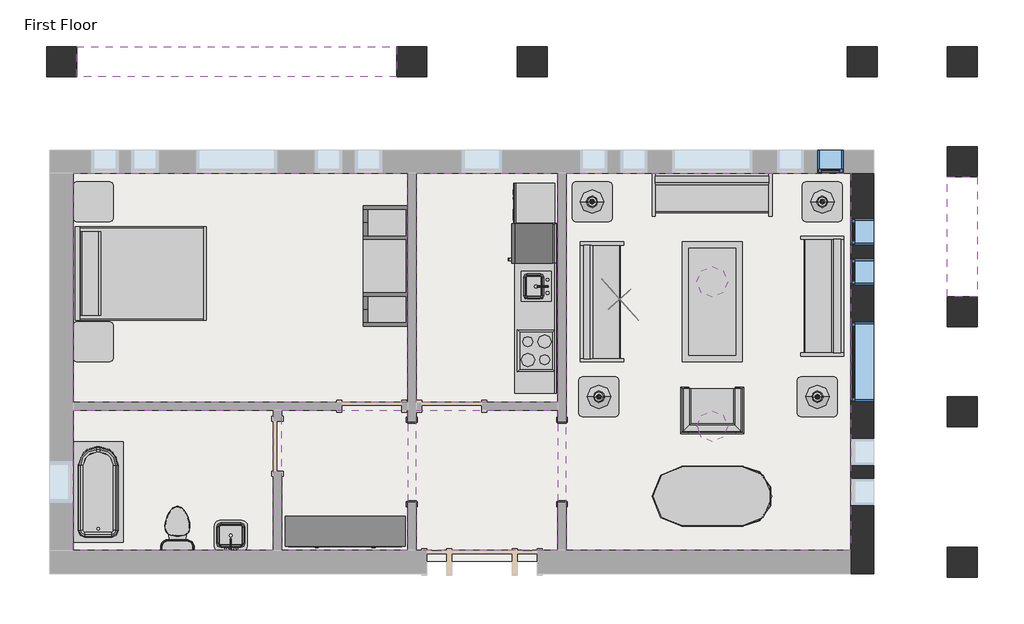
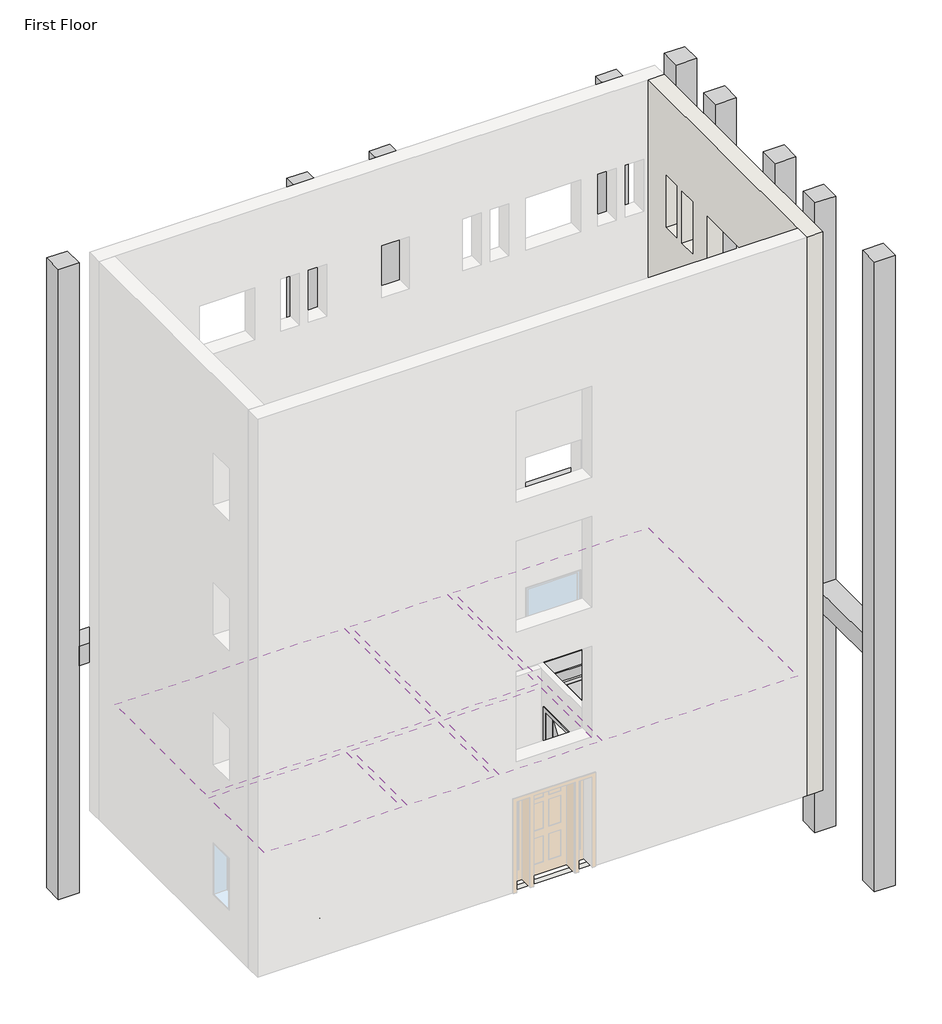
# One storey, part 2 of 2: 16 furniture elements, 9 columns, 7 proxies, 6 coverings, 6 light fixtures, 4 flow terminals, 4 windows, 2 beams, 2 other elements.
"""IFC4 building model written with IfcOpenShell, lengths in millimetres."""

from ifc_helpers import new_model, si_unit, frame, origin, place, context, project, spatial, polyline, outline, extrude, faceted_brep, transform, mapped, element, save
from components import proxy_dfcd9396, proxy_3c49123c, proxy_7a545507, proxy_f44482cc, rpc_female_69e001fa, proxy_ec3341c2, flow_terminal_41332a36, flow_terminal_62a433f7, toilet_domestic_3d_toilet_domestic_3d_f7549cf7, toilet_domestic_3d_toilet_domestic_3d_183bbd19, tub_rectangular_3d_tub_rectangular_3d_15036965, furniture_096e7f55, chair_corbu_chair_corbu_2764bdef, furniture_6db689a5, furniture_7c473f12, furniture_cf0b6580, furniture_a4ffab56, furniture_cd93a443, furniture_2c34a4f9, furniture_3a588284, pendant_light_disk_100w_120v_c68bffb6, table_lamp_standard_60w_120v_6e8cd8b1, window_da97879f, window_d61ef850, window_6eb97611

model = new_model("IFC4")

# Units and contexts
model_context = context("Model", 3, world=origin())
ifc_project = project(units=[si_unit("LENGTHUNIT", "METRE", prefix="MILLI")], contexts=[model_context])

# Site, building, storey
site = spatial("IfcSite", under=ifc_project)
building = spatial("IfcBuilding", under=site)
storey = spatial("IfcBuildingStorey", under=building, Name="First Floor", Elevation=0.0)

# Beams
placement = place(None, origin())
element("IfcBeam", 1, ObjectType="Concrete-Rectangular Beam : 18 x 18", at=placement, inside=storey, context=model_context, shape_type="SweptSolid", body=[
    extrude(outline(polyline([(2093.9410437, 12198.8316867), (2093.9410437, 11741.6316867), (1027.1410437, 11741.6316867), (1027.1410437, 12198.8316867), (2093.9410437, 12198.8316867)])), frame((0.0, 0.0, 2590.8), z_axis=(0.0, 0.0, 1.0), x_axis=(1.0, 0.0, 0.0)), (0.0, 0.0, 1.0), 457.2),
    extrude(outline(polyline([(-11164.8589563, 11741.6316867), (-11164.8589563, 12198.8316867), (-6288.0589563, 12198.8316867), (-6288.0589563, 11741.6316867), (-11164.8589563, 11741.6316867)])), frame((0.0, 0.0, 2590.8), z_axis=(0.0, 0.0, 1.0), x_axis=(1.0, 0.0, 0.0)), (0.0, 0.0, 1.0), 457.2),
    extrude(outline(polyline([(569.9410437, 12198.8316867), (569.9410437, 11741.6316867), (-4002.0589563, 11741.6316867), (-4002.0589563, 12198.8316867), (569.9410437, 12198.8316867)])), frame((0.0, 0.0, 2590.8), z_axis=(0.0, 0.0, 1.0), x_axis=(1.0, 0.0, 0.0)), (0.0, 0.0, 1.0), 457.2),
    extrude(outline(polyline([(-4459.2589563, 12198.8316867), (-4459.2589563, 11741.6316867), (-5830.8589563, 11741.6316867), (-5830.8589563, 12198.8316867), (-4459.2589563, 12198.8316867)])), frame((0.0, 0.0, 2590.8), z_axis=(0.0, 0.0, 1.0), x_axis=(1.0, 0.0, 0.0)), (0.0, 0.0, 1.0), 457.2),
])
element("IfcBeam", 2, ObjectType="Concrete-Rectangular Beam : 18 x 18", at=placement, inside=storey, context=model_context, shape_type="SweptSolid", body=[
    extrude(outline(polyline([(2093.9410437, 11741.6316867), (2551.1410437, 11741.6316867), (2551.1410437, 10674.8316867), (2093.9410437, 10674.8316867), (2093.9410437, 11741.6316867)])), frame((0.0, 0.0, 2590.8), z_axis=(0.0, 0.0, 1.0), x_axis=(1.0, 0.0, 0.0)), (0.0, 0.0, 1.0), 457.2),
    extrude(outline(polyline([(2551.1410437, 4578.8316867), (2093.9410437, 4578.8316867), (2093.9410437, 6407.6316867), (2551.1410437, 6407.6316867), (2551.1410437, 4578.8316867)])), frame((0.0, 0.0, 2590.8), z_axis=(0.0, 0.0, 1.0), x_axis=(1.0, 0.0, 0.0)), (0.0, 0.0, 1.0), 457.2),
    extrude(outline(polyline([(2093.9410437, 10217.6316867), (2551.1410437, 10217.6316867), (2551.1410437, 8388.8316867), (2093.9410437, 8388.8316867), (2093.9410437, 10217.6316867)])), frame((0.0, 0.0, 2590.8), z_axis=(0.0, 0.0, 1.0), x_axis=(1.0, 0.0, 0.0)), (0.0, 0.0, 1.0), 457.2),
    extrude(outline(polyline([(2093.9410437, 7931.6316867), (2551.1410437, 7931.6316867), (2551.1410437, 6864.8316867), (2093.9410437, 6864.8316867), (2093.9410437, 7931.6316867)])), frame((0.0, 0.0, 2590.8), z_axis=(0.0, 0.0, 1.0), x_axis=(1.0, 0.0, 0.0)), (0.0, 0.0, 1.0), 457.2),
])

# Proxies
proxy_shape = proxy_dfcd9396(model_context)
element("IfcBuildingElementProxy", 3, Name="Cook Top-4 Unit2 : 22\" x 20\"", ObjectType="Cook Top-4 Unit2 : 22\" x 20\"", at=placement, inside=storey, context=model_context, shape_type="MappedRepresentation", body=[
    mapped(proxy_shape, transform((-4167.1589563, 7568.5224391, 0.0), x_axis=(0.0, 1.0000000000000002, 0.0), y_axis=(-1.0000000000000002, 0.0, 0.0), z_axis=(0.0, 0.0, 1.0))),
])
proxy_2_shape = proxy_3c49123c(model_context)
element("IfcBuildingElementProxy", 4, Name="Dishwasher : 24\" x 24\" x 34\"", ObjectType="Dishwasher : 24\" x 24\" x 34\"", at=placement, inside=storey, context=model_context, shape_type="MappedRepresentation", body=[
    mapped(proxy_2_shape, transform((-4459.0085211, 9434.1049706, 0.0), x_axis=(0.0, 1.0000000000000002, 0.0), y_axis=(-1.0000000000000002, 0.0, 0.0), z_axis=(0.0, 0.0, 1.0))),
])
proxy_3_shape = proxy_7a545507(model_context)
element("IfcBuildingElementProxy", 5, Name="Kitchenette - Medium : 8'6\"", ObjectType="Kitchenette - Medium : 8'6\"", at=placement, inside=storey, context=model_context, shape_type="MappedRepresentation", body=[
    mapped(proxy_3_shape, transform((-3862.3589563, 8197.4847342, 0.0), x_axis=(0.0, 1.0000000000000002, 0.0), y_axis=(-1.0000000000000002, 0.0, 0.0), z_axis=(0.0, 0.0, 1.0))),
])
proxy_4_shape = proxy_f44482cc(model_context)
element("IfcBuildingElementProxy", 6, Name="Opening-Cased : 48\" x 84\"", ObjectType="Opening-Cased : 48\" x 84\"", at=placement, inside=storey, context=model_context, shape_type="MappedRepresentation", body=[
    mapped(proxy_4_shape, transform((-3773.4589563, 5882.4203434, 0.0), x_axis=(0.0, 1.0, 0.0), y_axis=(-1.0, 0.0, 0.0), z_axis=(0.0, 0.0, 1.0))),
])
element("IfcBuildingElementProxy", 7, Name="Opening-Cased : 48\" x 84\"", ObjectType="Opening-Cased : 48\" x 84\"", at=placement, inside=storey, context=model_context, shape_type="MappedRepresentation", body=[
    mapped(proxy_4_shape, transform((-6059.4589563, 5866.04303, 0.0), x_axis=(0.0, -1.0, 0.0), y_axis=(1.0, 0.0, 0.0), z_axis=(0.0, 0.0, 1.0))),
])
rpc_female_shape = rpc_female_69e001fa(model_context)
element("IfcBuildingElementProxy", 8, Name="RPC Female : Cynthia", ObjectType="RPC Female : Cynthia", at=placement, inside=storey, context=model_context, shape_type="MappedRepresentation", body=[
    mapped(rpc_female_shape, transform((-2793.743807, 8229.6, -0.79375), x_axis=(0.74728204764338, 0.6645069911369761, 0.0), y_axis=(-0.6645069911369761, 0.74728204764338, 0.0), z_axis=(0.0, 0.0, 1.0))),
])
proxy_5_shape = proxy_ec3341c2(model_context)
element("IfcBuildingElementProxy", 9, Name="Refrigerator : 24\" x 25\" LH", ObjectType="Refrigerator : 24\" x 25\" LH", at=placement, inside=storey, context=model_context, shape_type="MappedRepresentation", body=[
    mapped(proxy_5_shape, transform((-4212.8079278, 9200.4724391, 0.0), x_axis=(0.0, 1.0000000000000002, 0.0), y_axis=(-1.0000000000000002, 0.0, 0.0), z_axis=(0.0, 0.0, 1.0))),
])

# Columns
element("IfcColumn", 10, ObjectType="Concrete-Square-Column : 18 x 18", at=placement, inside=storey, context=model_context, shape_type="Brep", body=[
    faceted_brep([(1027.1410437, 12198.8316867, -2743.2), (1027.1410437, 11741.6316867, -2743.2), (569.9410437, 11741.6316867, -2743.2), (569.9410437, 12198.8316867, -2743.2), (1027.1410437, 12198.8316867, 12039.6), (1027.1410437, 11741.6316867, 12039.6), (1027.1410437, 11741.6316867, 11734.8), (1027.1410437, 11741.6316867, 9144.0), (1027.1410437, 11741.6316867, 8686.8), (1027.1410437, 11741.6316867, 6096.0), (1027.1410437, 11741.6316867, 5638.8), (1027.1410437, 11741.6316867, 3048.0), (1027.1410437, 11741.6316867, 2590.8), (1027.1410437, 12198.8316867, 2590.8), (1027.1410437, 12198.8316867, 3048.0), (1027.1410437, 12198.8316867, 5638.8), (1027.1410437, 12198.8316867, 6096.0), (1027.1410437, 12198.8316867, 8686.8), (1027.1410437, 12198.8316867, 9144.0), (1027.1410437, 12198.8316867, 11734.8), (569.9410437, 11741.6316867, 12039.6), (569.9410437, 11741.6316867, 11734.8), (569.9410437, 11741.6316867, 9144.0), (569.9410437, 11741.6316867, 8686.8), (569.9410437, 11741.6316867, 6096.0), (569.9410437, 11741.6316867, 5638.8), (569.9410437, 11741.6316867, 3048.0), (569.9410437, 11741.6316867, 2590.8), (569.9410437, 12198.8316867, 12039.6), (569.9410437, 12198.8316867, 11734.8), (569.9410437, 12198.8316867, 9144.0), (569.9410437, 12198.8316867, 8686.8), (569.9410437, 12198.8316867, 6096.0), (569.9410437, 12198.8316867, 5638.8), (569.9410437, 12198.8316867, 3048.0), (569.9410437, 12198.8316867, 2590.8)], [[[0, 1, 2, 3]], [[4, 5, 6, 7, 8, 9, 10, 11, 12, 1, 0, 13, 14, 15, 16, 17, 18, 19]], [[5, 20, 21, 22, 23, 24, 25, 26, 27, 2, 1, 12, 11, 10, 9, 8, 7, 6]], [[20, 28, 29, 30, 31, 32, 33, 34, 35, 3, 2, 27, 26, 25, 24, 23, 22, 21]], [[28, 4, 19, 18, 17, 16, 15, 14, 13, 0, 3, 35, 34, 33, 32, 31, 30, 29]], [[4, 28, 20, 5]]]),
])
element("IfcColumn", 11, ObjectType="Concrete-Square-Column : 18 x 18", at=placement, inside=storey, context=model_context, shape_type="Brep", body=[
    faceted_brep([(2551.1410437, 12198.8316867, -2743.2), (2551.1410437, 11741.6316867, -2743.2), (2093.9410437, 11741.6316867, -2743.2), (2093.9410437, 12198.8316867, -2743.2), (2551.1410437, 12198.8316867, 12039.6), (2551.1410437, 11741.6316867, 12039.6), (2551.1410437, 11741.6316867, 11734.8), (2093.9410437, 11741.6316867, 12039.6), (2093.9410437, 11741.6316867, 11734.8), (2093.9410437, 12198.8316867, 12039.6), (2093.9410437, 12198.8316867, 11734.8)], [[[0, 1, 2, 3]], [[4, 5, 6, 1, 0]], [[5, 7, 8, 2, 1, 6]], [[7, 9, 10, 3, 2, 8]], [[9, 4, 0, 3, 10]], [[4, 9, 7, 5]]]),
])
element("IfcColumn", 12, ObjectType="Concrete-Square-Column : 18 x 18", at=placement, inside=storey, context=model_context, shape_type="Brep", body=[
    faceted_brep([(-4002.0589563, 12198.8316867, -2743.2), (-4002.0589563, 11741.6316867, -2743.2), (-4459.2589563, 11741.6316867, -2743.2), (-4459.2589563, 12198.8316867, -2743.2), (-4002.0589563, 12198.8316867, 12039.6), (-4002.0589563, 11741.6316867, 12039.6), (-4002.0589563, 11741.6316867, 11734.8), (-4002.0589563, 11741.6316867, 9144.0), (-4002.0589563, 11741.6316867, 8686.8), (-4002.0589563, 11741.6316867, 6096.0), (-4002.0589563, 11741.6316867, 5638.8), (-4002.0589563, 11741.6316867, 3048.0), (-4002.0589563, 11741.6316867, 2590.8), (-4002.0589563, 12198.8316867, 2590.8), (-4002.0589563, 12198.8316867, 3048.0), (-4002.0589563, 12198.8316867, 5638.8), (-4002.0589563, 12198.8316867, 6096.0), (-4002.0589563, 12198.8316867, 8686.8), (-4002.0589563, 12198.8316867, 9144.0), (-4002.0589563, 12198.8316867, 11734.8), (-4459.2589563, 11741.6316867, 12039.6), (-4459.2589563, 11741.6316867, 11734.8), (-4459.2589563, 11741.6316867, 9144.0), (-4459.2589563, 11741.6316867, 8686.8), (-4459.2589563, 11741.6316867, 6096.0), (-4459.2589563, 11741.6316867, 5638.8), (-4459.2589563, 11741.6316867, 3048.0), (-4459.2589563, 11741.6316867, 2590.8), (-4459.2589563, 12198.8316867, 12039.6), (-4459.2589563, 12198.8316867, 11734.8), (-4459.2589563, 12198.8316867, 9144.0), (-4459.2589563, 12198.8316867, 8686.8), (-4459.2589563, 12198.8316867, 6096.0), (-4459.2589563, 12198.8316867, 5638.8), (-4459.2589563, 12198.8316867, 3048.0), (-4459.2589563, 12198.8316867, 2590.8)], [[[0, 1, 2, 3]], [[4, 5, 6, 7, 8, 9, 10, 11, 12, 1, 0, 13, 14, 15, 16, 17, 18, 19]], [[5, 20, 21, 22, 23, 24, 25, 26, 27, 2, 1, 12, 11, 10, 9, 8, 7, 6]], [[20, 28, 29, 30, 31, 32, 33, 34, 35, 3, 2, 27, 26, 25, 24, 23, 22, 21]], [[28, 4, 19, 18, 17, 16, 15, 14, 13, 0, 3, 35, 34, 33, 32, 31, 30, 29]], [[4, 28, 20, 5]]]),
])
element("IfcColumn", 13, ObjectType="Concrete-Square-Column : 18 x 18", at=placement, inside=storey, context=model_context, shape_type="Brep", body=[
    faceted_brep([(-5830.8589563, 12198.8316867, -2743.2), (-5830.8589563, 11741.6316867, -2743.2), (-6288.0589563, 11741.6316867, -2743.2), (-6288.0589563, 12198.8316867, -2743.2), (-5830.8589563, 12198.8316867, 12039.6), (-5830.8589563, 11741.6316867, 12039.6), (-5830.8589563, 11741.6316867, 11734.8), (-5830.8589563, 11741.6316867, 9144.0), (-5830.8589563, 11741.6316867, 8686.8), (-5830.8589563, 11741.6316867, 6096.0), (-5830.8589563, 11741.6316867, 5638.8), (-5830.8589563, 11741.6316867, 3048.0), (-5830.8589563, 11741.6316867, 2590.8), (-5830.8589563, 12198.8316867, 2590.8), (-5830.8589563, 12198.8316867, 3048.0), (-5830.8589563, 12198.8316867, 5638.8), (-5830.8589563, 12198.8316867, 6096.0), (-5830.8589563, 12198.8316867, 8686.8), (-5830.8589563, 12198.8316867, 9144.0), (-5830.8589563, 12198.8316867, 11734.8), (-6288.0589563, 11741.6316867, 12039.6), (-6288.0589563, 11741.6316867, 11734.8), (-6288.0589563, 11741.6316867, 9144.0), (-6288.0589563, 11741.6316867, 8686.8), (-6288.0589563, 11741.6316867, 6096.0), (-6288.0589563, 11741.6316867, 5638.8), (-6288.0589563, 11741.6316867, 3048.0), (-6288.0589563, 11741.6316867, 2590.8), (-6288.0589563, 12198.8316867, 12039.6), (-6288.0589563, 12198.8316867, 11734.8), (-6288.0589563, 12198.8316867, 9144.0), (-6288.0589563, 12198.8316867, 8686.8), (-6288.0589563, 12198.8316867, 6096.0), (-6288.0589563, 12198.8316867, 5638.8), (-6288.0589563, 12198.8316867, 3048.0), (-6288.0589563, 12198.8316867, 2590.8)], [[[0, 1, 2, 3]], [[4, 5, 6, 7, 8, 9, 10, 11, 12, 1, 0, 13, 14, 15, 16, 17, 18, 19]], [[5, 20, 21, 22, 23, 24, 25, 26, 27, 2, 1, 12, 11, 10, 9, 8, 7, 6]], [[20, 28, 29, 30, 31, 32, 33, 34, 35, 3, 2, 27, 26, 25, 24, 23, 22, 21]], [[28, 4, 19, 18, 17, 16, 15, 14, 13, 0, 3, 35, 34, 33, 32, 31, 30, 29]], [[4, 28, 20, 5]]]),
])
element("IfcColumn", 14, ObjectType="Concrete-Square-Column : 18 x 18", at=placement, inside=storey, context=model_context, shape_type="Brep", body=[
    faceted_brep([(-11164.8589563, 12198.8316867, -2743.2), (-11164.8589563, 11741.6316867, -2743.2), (-11622.0589563, 11741.6316867, -2743.2), (-11622.0589563, 12198.8316867, -2743.2), (-11164.8589563, 12198.8316867, 12039.6), (-11164.8589563, 11741.6316867, 12039.6), (-11164.8589563, 11741.6316867, 11734.8), (-11164.8589563, 12198.8316867, 11734.8), (-11622.0589563, 11741.6316867, 12039.6), (-11622.0589563, 12198.8316867, 12039.6)], [[[0, 1, 2, 3]], [[4, 5, 6, 1, 0, 7]], [[5, 8, 2, 1, 6]], [[8, 9, 3, 2]], [[9, 4, 7, 0, 3]], [[4, 9, 8, 5]]]),
])
element("IfcColumn", 15, ObjectType="Concrete-Square-Column : 18 x 18", at=placement, inside=storey, context=model_context, shape_type="Brep", body=[
    faceted_brep([(2551.1410437, 10674.8316867, -2743.2), (2551.1410437, 10217.6316867, -2743.2), (2093.9410437, 10217.6316867, -2743.2), (2093.9410437, 10674.8316867, -2743.2), (2551.1410437, 10674.8316867, 12039.6), (2551.1410437, 10217.6316867, 12039.6), (2551.1410437, 10217.6316867, 11734.8), (2551.1410437, 10217.6316867, 9144.0), (2551.1410437, 10217.6316867, 8686.8), (2551.1410437, 10217.6316867, 6096.0), (2551.1410437, 10217.6316867, 5638.8), (2551.1410437, 10217.6316867, 3048.0), (2551.1410437, 10217.6316867, 2590.8), (2551.1410437, 10674.8316867, 2590.8), (2551.1410437, 10674.8316867, 3048.0), (2551.1410437, 10674.8316867, 5638.8), (2551.1410437, 10674.8316867, 6096.0), (2551.1410437, 10674.8316867, 8686.8), (2551.1410437, 10674.8316867, 9144.0), (2551.1410437, 10674.8316867, 11734.8), (2093.9410437, 10217.6316867, 12039.6), (2093.9410437, 10217.6316867, 11734.8), (2093.9410437, 10217.6316867, 9144.0), (2093.9410437, 10217.6316867, 8686.8), (2093.9410437, 10217.6316867, 6096.0), (2093.9410437, 10217.6316867, 5638.8), (2093.9410437, 10217.6316867, 3048.0), (2093.9410437, 10217.6316867, 2590.8), (2093.9410437, 10674.8316867, 12039.6), (2093.9410437, 10674.8316867, 11734.8), (2093.9410437, 10674.8316867, 9144.0), (2093.9410437, 10674.8316867, 8686.8), (2093.9410437, 10674.8316867, 6096.0), (2093.9410437, 10674.8316867, 5638.8), (2093.9410437, 10674.8316867, 3048.0), (2093.9410437, 10674.8316867, 2590.8)], [[[0, 1, 2, 3]], [[4, 5, 6, 7, 8, 9, 10, 11, 12, 1, 0, 13, 14, 15, 16, 17, 18, 19]], [[5, 20, 21, 22, 23, 24, 25, 26, 27, 2, 1, 12, 11, 10, 9, 8, 7, 6]], [[20, 28, 29, 30, 31, 32, 33, 34, 35, 3, 2, 27, 26, 25, 24, 23, 22, 21]], [[28, 4, 19, 18, 17, 16, 15, 14, 13, 0, 3, 35, 34, 33, 32, 31, 30, 29]], [[4, 28, 20, 5]]]),
])
element("IfcColumn", 16, ObjectType="Concrete-Square-Column : 18 x 18", at=placement, inside=storey, context=model_context, shape_type="Brep", body=[
    faceted_brep([(2551.1410437, 8388.8316867, -2743.2), (2551.1410437, 7931.6316867, -2743.2), (2093.9410437, 7931.6316867, -2743.2), (2093.9410437, 8388.8316867, -2743.2), (2551.1410437, 8388.8316867, 12039.6), (2551.1410437, 7931.6316867, 12039.6), (2551.1410437, 7931.6316867, 11734.8), (2551.1410437, 7931.6316867, 9144.0), (2551.1410437, 7931.6316867, 8686.8), (2551.1410437, 7931.6316867, 6096.0), (2551.1410437, 7931.6316867, 5638.8), (2551.1410437, 7931.6316867, 3048.0), (2551.1410437, 7931.6316867, 2590.8), (2551.1410437, 8388.8316867, 2590.8), (2551.1410437, 8388.8316867, 3048.0), (2551.1410437, 8388.8316867, 5638.8), (2551.1410437, 8388.8316867, 6096.0), (2551.1410437, 8388.8316867, 8686.8), (2551.1410437, 8388.8316867, 9144.0), (2551.1410437, 8388.8316867, 11734.8), (2093.9410437, 7931.6316867, 12039.6), (2093.9410437, 7931.6316867, 11734.8), (2093.9410437, 7931.6316867, 9144.0), (2093.9410437, 7931.6316867, 8686.8), (2093.9410437, 7931.6316867, 6096.0), (2093.9410437, 7931.6316867, 5638.8), (2093.9410437, 7931.6316867, 3048.0), (2093.9410437, 7931.6316867, 2590.8), (2093.9410437, 8388.8316867, 12039.6), (2093.9410437, 8388.8316867, 11734.8), (2093.9410437, 8388.8316867, 9144.0), (2093.9410437, 8388.8316867, 8686.8), (2093.9410437, 8388.8316867, 6096.0), (2093.9410437, 8388.8316867, 5638.8), (2093.9410437, 8388.8316867, 3048.0), (2093.9410437, 8388.8316867, 2590.8)], [[[0, 1, 2, 3]], [[4, 5, 6, 7, 8, 9, 10, 11, 12, 1, 0, 13, 14, 15, 16, 17, 18, 19]], [[5, 20, 21, 22, 23, 24, 25, 26, 27, 2, 1, 12, 11, 10, 9, 8, 7, 6]], [[20, 28, 29, 30, 31, 32, 33, 34, 35, 3, 2, 27, 26, 25, 24, 23, 22, 21]], [[28, 4, 19, 18, 17, 16, 15, 14, 13, 0, 3, 35, 34, 33, 32, 31, 30, 29]], [[4, 28, 20, 5]]]),
])
element("IfcColumn", 17, ObjectType="Concrete-Square-Column : 18 x 18", at=placement, inside=storey, context=model_context, shape_type="Brep", body=[
    faceted_brep([(2551.1410437, 6864.8316867, -2743.2), (2551.1410437, 6407.6316867, -2743.2), (2093.9410437, 6407.6316867, -2743.2), (2093.9410437, 6864.8316867, -2743.2), (2551.1410437, 6864.8316867, 12039.6), (2551.1410437, 6407.6316867, 12039.6), (2551.1410437, 6407.6316867, 11734.8), (2551.1410437, 6407.6316867, 9144.0), (2551.1410437, 6407.6316867, 8686.8), (2551.1410437, 6407.6316867, 6096.0), (2551.1410437, 6407.6316867, 5638.8), (2551.1410437, 6407.6316867, 3048.0), (2551.1410437, 6407.6316867, 2590.8), (2551.1410437, 6864.8316867, 2590.8), (2551.1410437, 6864.8316867, 3048.0), (2551.1410437, 6864.8316867, 5638.8), (2551.1410437, 6864.8316867, 6096.0), (2551.1410437, 6864.8316867, 8686.8), (2551.1410437, 6864.8316867, 9144.0), (2551.1410437, 6864.8316867, 11734.8), (2093.9410437, 6407.6316867, 12039.6), (2093.9410437, 6407.6316867, 11734.8), (2093.9410437, 6407.6316867, 9144.0), (2093.9410437, 6407.6316867, 8686.8), (2093.9410437, 6407.6316867, 6096.0), (2093.9410437, 6407.6316867, 5638.8), (2093.9410437, 6407.6316867, 3048.0), (2093.9410437, 6407.6316867, 2590.8), (2093.9410437, 6864.8316867, 12039.6), (2093.9410437, 6864.8316867, 11734.8), (2093.9410437, 6864.8316867, 9144.0), (2093.9410437, 6864.8316867, 8686.8), (2093.9410437, 6864.8316867, 6096.0), (2093.9410437, 6864.8316867, 5638.8), (2093.9410437, 6864.8316867, 3048.0), (2093.9410437, 6864.8316867, 2590.8)], [[[0, 1, 2, 3]], [[4, 5, 6, 7, 8, 9, 10, 11, 12, 1, 0, 13, 14, 15, 16, 17, 18, 19]], [[5, 20, 21, 22, 23, 24, 25, 26, 27, 2, 1, 12, 11, 10, 9, 8, 7, 6]], [[20, 28, 29, 30, 31, 32, 33, 34, 35, 3, 2, 27, 26, 25, 24, 23, 22, 21]], [[28, 4, 19, 18, 17, 16, 15, 14, 13, 0, 3, 35, 34, 33, 32, 31, 30, 29]], [[4, 28, 20, 5]]]),
])
element("IfcColumn", 18, ObjectType="Concrete-Square-Column : 18 x 18", at=placement, inside=storey, context=model_context, shape_type="Brep", body=[
    faceted_brep([(2551.1410437, 4578.8316867, -2743.2), (2551.1410437, 4121.6316867, -2743.2), (2093.9410437, 4121.6316867, -2743.2), (2093.9410437, 4578.8316867, -2743.2), (2551.1410437, 4578.8316867, 12039.6), (2551.1410437, 4121.6316867, 12039.6), (2551.1410437, 4578.8316867, 11734.8), (2093.9410437, 4121.6316867, 12039.6), (2093.9410437, 4578.8316867, 12039.6), (2093.9410437, 4578.8316867, 11734.8)], [[[0, 1, 2, 3]], [[4, 5, 1, 0, 6]], [[5, 7, 2, 1]], [[7, 8, 9, 3, 2]], [[8, 4, 6, 0, 3, 9]], [[4, 8, 7, 5]]]),
])

# Coverings
element("IfcCovering", 19, ObjectType="GWB on Mtl. Stud", at=placement, inside=storey, context=model_context, shape_type="SweptSolid", body=[
    extrude(outline(polyline([(-11217.2464563, 10270.0191867), (-6122.9589563, 10270.0191867), (-6122.9589563, 6787.0441867), (-11217.2464563, 6787.0441867), (-11217.2464563, 10270.0191867)])), frame((0.0, 0.0, 2590.8), z_axis=(0.0, 0.0, 1.0), x_axis=(1.0, 0.0, 0.0)), (0.0, 0.0, 1.0), 107.95),
])
element("IfcCovering", 20, ObjectType="GWB on Mtl. Stud", at=placement, inside=storey, context=model_context, shape_type="SweptSolid", body=[
    extrude(outline(polyline([(-5995.9589563, 6787.0441867), (-5995.9589563, 10270.0191867), (-3836.9589563, 10270.0191867), (-3836.9589563, 6787.0441867), (-5995.9589563, 6787.0441867)])), frame((0.0, 0.0, 2590.8), z_axis=(0.0, 0.0, 1.0), x_axis=(1.0, 0.0, 0.0)), (0.0, 0.0, 1.0), 107.95),
])
element("IfcCovering", 21, ObjectType="GWB on Mtl. Stud", at=placement, inside=storey, context=model_context, shape_type="SweptSolid", body=[
    extrude(outline(polyline([(-3709.9589563, 4526.4441867), (-3709.9589563, 10270.0191867), (622.3285437, 10270.0191867), (622.3285437, 4526.4441867), (-3709.9589563, 4526.4441867)])), frame((0.0, 0.0, 2590.8), z_axis=(0.0, 0.0, 1.0), x_axis=(1.0, 0.0, 0.0)), (0.0, 0.0, 1.0), 107.95),
])
element("IfcCovering", 22, ObjectType="GWB on Mtl. Stud", at=placement, inside=storey, context=model_context, shape_type="SweptSolid", body=[
    extrude(outline(polyline([(-3836.9589563, 4526.4441867), (-5995.9589563, 4526.4441867), (-5995.9589563, 6660.0441867), (-3836.9589563, 6660.0441867), (-3836.9589563, 4526.4441867)])), frame((0.0, 0.0, 2590.8), z_axis=(0.0, 0.0, 1.0), x_axis=(1.0, 0.0, 0.0)), (0.0, 0.0, 1.0), 107.95),
])
element("IfcCovering", 23, ObjectType="GWB on Mtl. Stud", at=placement, inside=storey, context=model_context, shape_type="SweptSolid", body=[
    extrude(outline(polyline([(-8169.2464563, 6660.0441867), (-8169.2464563, 4526.4441867), (-11217.2464563, 4526.4441867), (-11217.2464563, 6660.0441867), (-8169.2464563, 6660.0441867)])), frame((0.0, 0.0, 2590.8), z_axis=(0.0, 0.0, 1.0), x_axis=(1.0, 0.0, 0.0)), (0.0, 0.0, 1.0), 107.95),
])
element("IfcCovering", 24, ObjectType="GWB on Mtl. Stud", at=placement, inside=storey, context=model_context, shape_type="SweptSolid", body=[
    extrude(outline(polyline([(-6122.9589563, 4526.4441867), (-8042.2464563, 4526.4441867), (-8042.2464563, 6660.0441867), (-6122.9589563, 6660.0441867), (-6122.9589563, 4526.4441867)])), frame((0.0, 0.0, 2590.8), z_axis=(0.0, 0.0, 1.0), x_axis=(1.0, 0.0, 0.0)), (0.0, 0.0, 1.0), 107.95),
])

# Flow terminals
flow_terminal_shape = flow_terminal_41332a36(model_context)
element("IfcFlowTerminal", 25, ObjectType="Sink Kitchen-Island : 18\" x 18\"", at=placement, inside=storey, context=model_context, shape_type="MappedRepresentation", body=[
    mapped(flow_terminal_shape, transform((-4169.5043574, 8530.7331986, -14.4), x_axis=(0.0, 1.0000000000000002, 0.0), y_axis=(-1.0000000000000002, 0.0, 0.0), z_axis=(0.0, 0.0, 1.0))),
])
flow_terminal_2_shape = flow_terminal_62a433f7(model_context)
element("IfcFlowTerminal", 26, ObjectType="Sink Vanity-Square : 20\" x 18\"", at=placement, inside=storey, context=model_context, shape_type="MappedRepresentation", body=[
    mapped(flow_terminal_2_shape, transform((-8801.2572158, 4706.5895878, 0.0), x_axis=(-1.0, 0.0, 0.0), y_axis=(0.0, -1.0, 0.0), z_axis=(0.0, 0.0, 1.0))),
])
toilet_domestic_3d_toilet_domestic_3d_shape = toilet_domestic_3d_toilet_domestic_3d_f7549cf7(model_context)
toilet_domestic_3d_toilet_domestic_3d_2_shape = toilet_domestic_3d_toilet_domestic_3d_183bbd19(model_context)
element("IfcFlowTerminal", 27, ObjectType="Toilet-Domestic-3D : Toilet-Domestic-3D", at=placement, inside=storey, context=model_context, shape_type="MappedRepresentation", body=[
    mapped(toilet_domestic_3d_toilet_domestic_3d_shape, transform((-9629.7464563, 4894.7441867, 0.0), x_axis=(-1.0, 0.0, 0.0), y_axis=(0.0, -1.0, 0.0), z_axis=(0.0, 0.0, 1.0))),
    mapped(toilet_domestic_3d_toilet_domestic_3d_2_shape, transform((-9629.7464563, 4894.7441867, 0.0), x_axis=(-1.0, 0.0, 0.0), y_axis=(0.0, -1.0, 0.0), z_axis=(0.0, 0.0, 1.0))),
])
tub_rectangular_3d_tub_rectangular_3d_shape = tub_rectangular_3d_tub_rectangular_3d_15036965(model_context)
element("IfcFlowTerminal", 28, ObjectType="Tub-Rectangular-3D : Tub-Rectangular-3D", at=placement, inside=storey, context=model_context, shape_type="MappedRepresentation", body=[
    mapped(tub_rectangular_3d_tub_rectangular_3d_shape, transform((-11393.4589563, 5765.6346554, 0.0), x_axis=(0.0, 1.0, 0.0), y_axis=(-1.0, 0.0, 0.0), z_axis=(0.0, 0.0, 1.0))),
])

# Furniture
furniture_shape = furniture_096e7f55(model_context)
element("IfcFurniture", 29, ObjectType="Bed-Shaker : Double 56\" x 78\"", at=placement, inside=storey, context=model_context, shape_type="MappedRepresentation", body=[
    mapped(furniture_shape, transform((-11172.0857802, 8763.4816867, 0.0), x_axis=(0.0, 1.0, 0.0), y_axis=(-1.0, 0.0, 0.0), z_axis=(0.0, 0.0, 1.0))),
])
chair_corbu_chair_corbu_shape = chair_corbu_chair_corbu_2764bdef(model_context)
element("IfcFurniture", 30, ObjectType="Chair-Corbu : Chair-Corbu", at=placement, inside=storey, context=model_context, shape_type="MappedRepresentation", body=[
    mapped(chair_corbu_chair_corbu_shape, transform((-914.0851858, 7126.8212359, 0.0), x_axis=(-1.0, 0.0, 0.0), y_axis=(0.0, -1.0, 0.0), z_axis=(0.0, 0.0, 1.0))),
])
furniture_2_shape = furniture_6db689a5(model_context)
element("IfcFurniture", 31, ObjectType="Counter Top w Sink Hole : 24\" Depth", at=placement, inside=storey, context=model_context, shape_type="MappedRepresentation", body=[
    mapped(furniture_2_shape, transform((-3862.3589563, 8121.2847342, -14.4), x_axis=(0.0, 1.0000000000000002, 0.0), y_axis=(-1.0000000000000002, 0.0, 0.0), z_axis=(0.0, 0.0, 1.0))),
])
furniture_3_shape = furniture_7c473f12(model_context)
element("IfcFurniture", 32, ObjectType="Dresser : 72\" x 60\" x 18\"", at=placement, inside=storey, context=model_context, shape_type="MappedRepresentation", body=[
    mapped(furniture_3_shape, transform((-6806.2656965, 5181.7071408, 0.0), x_axis=(1.0, 0.0, 0.0), y_axis=(0.0, 1.0, 0.0), z_axis=(0.0, 0.0, 1.0))),
])
furniture_4_shape = furniture_cf0b6580(model_context)
element("IfcFurniture", 33, ObjectType="Entertainment Center : 72\" x 72\" x 24\"", at=placement, inside=storey, context=model_context, shape_type="MappedRepresentation", body=[
    mapped(furniture_4_shape, transform((-6021.3589563, 8857.1441867, 0.0), x_axis=(0.0, -1.0, 0.0), y_axis=(1.0, 0.0, 0.0), z_axis=(0.0, 0.0, 1.0))),
])
furniture_5_shape = furniture_a4ffab56(model_context)
element("IfcFurniture", 34, ObjectType="Sofa : 72\"", at=placement, inside=storey, context=model_context, shape_type="MappedRepresentation", body=[
    mapped(furniture_5_shape, transform((-3017.704858, 8242.2611949, 0.0), x_axis=(0.0, 1.0, 0.0), y_axis=(-1.0, 0.0, 0.0), z_axis=(0.0, 0.0, 1.0))),
])
element("IfcFurniture", 35, ObjectType="Sofa : 72\"", at=placement, inside=storey, context=model_context, shape_type="MappedRepresentation", body=[
    mapped(furniture_5_shape, transform((-1557.8294481, 9801.5748071, 0.0), x_axis=(1.0, 0.0, 0.0), y_axis=(0.0, 1.0, 0.0), z_axis=(0.0, 0.0, 1.0))),
])
element("IfcFurniture", 36, ObjectType="Sofa : 72\"", at=placement, inside=storey, context=model_context, shape_type="MappedRepresentation", body=[
    mapped(furniture_5_shape, transform((42.7869453, 8470.3146785, 0.0), x_axis=(0.0, -1.0, 0.0), y_axis=(1.0, 0.0, 0.0), z_axis=(0.0, 0.0, 1.0))),
])
furniture_6_shape = furniture_cd93a443(model_context)
element("IfcFurniture", 37, ObjectType="Table-Coffee : 36\" x 72\" x 18\"", at=placement, inside=storey, context=model_context, shape_type="MappedRepresentation", body=[
    mapped(furniture_6_shape, transform((-1392.2478785, 8294.36592, 0.0), x_axis=(0.0, 1.0, 0.0), y_axis=(-1.0, 0.0, 0.0), z_axis=(0.0, 0.0, 1.0))),
])
furniture_7_shape = furniture_2c34a4f9(model_context)
element("IfcFurniture", 38, ObjectType="Table-Dining Oval : 36\" x 72\"", at=placement, inside=storey, context=model_context, shape_type="MappedRepresentation", body=[
    mapped(furniture_7_shape, transform((-1085.6392842, 5710.0425473, 0.0), x_axis=(1.0, 0.0, 0.0), y_axis=(0.0, 1.0, 0.0), z_axis=(0.0, 0.0, 1.0))),
])
furniture_8_shape = furniture_3a588284(model_context)
element("IfcFurniture", 39, ObjectType="Table-End : 24\" x 24\"", at=placement, inside=storey, context=model_context, shape_type="MappedRepresentation", body=[
    mapped(furniture_8_shape, transform((-119.5925866, 9684.2316867, 0.0), x_axis=(1.0, 0.0, 0.0), y_axis=(0.0, 1.0, 0.0), z_axis=(0.0, 0.0, 1.0))),
])
element("IfcFurniture", 40, ObjectType="Table-End : 24\" x 24\"", at=placement, inside=storey, context=model_context, shape_type="MappedRepresentation", body=[
    mapped(furniture_8_shape, transform((-11220.9800866, 7550.6316867, 0.0), x_axis=(1.0, 0.0, 0.0), y_axis=(0.0, 1.0, 0.0), z_axis=(0.0, 0.0, 1.0))),
])
element("IfcFurniture", 41, ObjectType="Table-End : 24\" x 24\"", at=placement, inside=storey, context=model_context, shape_type="MappedRepresentation", body=[
    mapped(furniture_8_shape, transform((-11220.9800866, 9684.2316867, 0.0), x_axis=(1.0, 0.0, 0.0), y_axis=(0.0, 1.0, 0.0), z_axis=(0.0, 0.0, 1.0))),
])
element("IfcFurniture", 42, ObjectType="Table-End : 24\" x 24\"", at=placement, inside=storey, context=model_context, shape_type="MappedRepresentation", body=[
    mapped(furniture_8_shape, transform((-3624.7925866, 9684.2316867, 0.0), x_axis=(1.0, 0.0, 0.0), y_axis=(0.0, 1.0, 0.0), z_axis=(0.0, 0.0, 1.0))),
])
element("IfcFurniture", 43, ObjectType="Table-End : 24\" x 24\"", at=placement, inside=storey, context=model_context, shape_type="MappedRepresentation", body=[
    mapped(furniture_8_shape, transform((-3521.0782623, 6714.242027, 0.0), x_axis=(1.0, 0.0, 0.0), y_axis=(0.0, 1.0, 0.0), z_axis=(0.0, 0.0, 1.0))),
])
element("IfcFurniture", 44, ObjectType="Table-End : 24\" x 24\"", at=placement, inside=storey, context=model_context, shape_type="MappedRepresentation", body=[
    mapped(furniture_8_shape, transform((-193.6782623, 6714.242027, 0.0), x_axis=(1.0, 0.0, 0.0), y_axis=(0.0, 1.0, 0.0), z_axis=(0.0, 0.0, 1.0))),
])

# Light fixtures
pendant_light_disk_100w_120v_shape = pendant_light_disk_100w_120v_c68bffb6(model_context)
element("IfcLightFixture", 45, ObjectType="Pendant Light - Disk : 100W - 120V", at=placement, inside=storey, context=model_context, shape_type="MappedRepresentation", body=[
    mapped(pendant_light_disk_100w_120v_shape, transform((-1487.4589563, 8617.4316867, 152.3999938), x_axis=(1.0, 0.0, 0.0), y_axis=(0.0, 1.0, 0.0), z_axis=(0.0, 0.0, 1.0))),
])
element("IfcLightFixture", 46, ObjectType="Pendant Light - Disk : 100W - 120V", at=placement, inside=storey, context=model_context, shape_type="MappedRepresentation", body=[
    mapped(pendant_light_disk_100w_120v_shape, transform((-1487.4589563, 6418.7441867, 152.3999938), x_axis=(1.0, 0.0, 0.0), y_axis=(0.0, 1.0, 0.0), z_axis=(0.0, 0.0, 1.0))),
])
table_lamp_standard_60w_120v_shape = table_lamp_standard_60w_120v_6e8cd8b1(model_context)
element("IfcLightFixture", 47, ObjectType="Table Lamp - Standard : 60W - 120V", at=placement, inside=storey, context=model_context, shape_type="MappedRepresentation", body=[
    mapped(table_lamp_standard_60w_120v_shape, transform((-3316.2589563, 9836.6316867, 381.0), x_axis=(1.0, 0.0, 0.0), y_axis=(0.0, 1.0, 0.0), z_axis=(0.0, 0.0, 1.0))),
])
element("IfcLightFixture", 48, ObjectType="Table Lamp - Standard : 60W - 120V", at=placement, inside=storey, context=model_context, shape_type="MappedRepresentation", body=[
    mapped(table_lamp_standard_60w_120v_shape, transform((188.9410437, 9836.6316867, 381.0), x_axis=(1.0, 0.0, 0.0), y_axis=(0.0, 1.0, 0.0), z_axis=(0.0, 0.0, 1.0))),
])
element("IfcLightFixture", 49, ObjectType="Table Lamp - Standard : 60W - 120V", at=placement, inside=storey, context=model_context, shape_type="MappedRepresentation", body=[
    mapped(table_lamp_standard_60w_120v_shape, transform((-3212.544632, 6866.642027, 381.0), x_axis=(1.0, 0.0, 0.0), y_axis=(0.0, 1.0, 0.0), z_axis=(0.0, 0.0, 1.0))),
])
element("IfcLightFixture", 50, ObjectType="Table Lamp - Standard : 60W - 120V", at=placement, inside=storey, context=model_context, shape_type="MappedRepresentation", body=[
    mapped(table_lamp_standard_60w_120v_shape, transform((114.855368, 6866.642027, 381.0), x_axis=(1.0, 0.0, 0.0), y_axis=(0.0, 1.0, 0.0), z_axis=(0.0, 0.0, 1.0))),
])

# Slab
element("IfcSlab", 51, ObjectType="LW Concrete on Metal Deck", at=placement, inside=storey, context=model_context, shape_type="SweptSolid", body=[
    extrude(outline(polyline([(787.4285437, 10435.1191867), (787.4285437, 4361.3441867), (-11382.3464563, 4361.3441867), (-11382.3464563, 10435.1191867), (787.4285437, 10435.1191867)])), frame((0.0, 0.0, -104.775), z_axis=(0.0, 0.0, 1.0), x_axis=(1.0, 0.0, 0.0)), (0.0, 0.0, 1.0), 104.775),
])

# Wall
element("IfcWall", 52, ObjectType="Exterior - Brick on Mtl. Stud", at=placement, inside=storey, context=model_context, shape_type="Brep", body=[
    faceted_brep([(622.3285437, 10270.0191867, 13106.4), (622.3285437, 4526.4441867, 13106.4), (622.3285437, 4174.0191867, 13106.4), (974.7535437, 4174.0191867, 13106.4), (974.7535437, 10270.0191867, 13106.4), (622.3285437, 10270.0191867, 0.0), (622.3285437, 4526.4441867, 0.0), (622.3285437, 4361.3441867, 0.0), (622.3285437, 4174.0191867, 0.0), (622.3285437, 5823.4316867, 8229.6), (622.3285437, 5823.4316867, 7010.4), (622.3285437, 6229.8316867, 7010.4), (622.3285437, 6229.8316867, 8229.6), (622.3285437, 5213.8316867, 8229.6), (622.3285437, 5213.8316867, 7010.4), (622.3285437, 5620.2316867, 7010.4), (622.3285437, 5620.2316867, 8229.6), (622.3285437, 8973.0316867, 8229.6), (622.3285437, 8566.6316867, 8229.6), (622.3285437, 8566.6316867, 7010.4), (622.3285437, 8973.0316867, 7010.4), (622.3285437, 9582.6316867, 8229.6), (622.3285437, 9176.2316867, 8229.6), (622.3285437, 9176.2316867, 7010.4), (622.3285437, 9582.6316867, 7010.4), (622.3285437, 8007.8316867, 8229.6), (622.3285437, 6788.6316867, 8229.6), (622.3285437, 6788.6316867, 7010.4), (622.3285437, 8007.8316867, 7010.4), (622.3285437, 5823.4316867, 5181.6), (622.3285437, 5823.4316867, 3962.4), (622.3285437, 6229.8316867, 3962.4), (622.3285437, 6229.8316867, 5181.6), (622.3285437, 5213.8316867, 5181.6), (622.3285437, 5213.8316867, 3962.4), (622.3285437, 5620.2316867, 3962.4), (622.3285437, 5620.2316867, 5181.6), (622.3285437, 8973.0316867, 5181.6), (622.3285437, 8566.6316867, 5181.6), (622.3285437, 8566.6316867, 3962.4), (622.3285437, 8973.0316867, 3962.4), (622.3285437, 9582.6316867, 5181.6), (622.3285437, 9176.2316867, 5181.6), (622.3285437, 9176.2316867, 3962.4), (622.3285437, 9582.6316867, 3962.4), (622.3285437, 8007.8316867, 5181.6), (622.3285437, 6788.6316867, 5181.6), (622.3285437, 6788.6316867, 3962.4), (622.3285437, 8007.8316867, 3962.4), (622.3285437, 5823.4316867, 11277.6), (622.3285437, 5823.4316867, 10058.4), (622.3285437, 6229.8316867, 10058.4), (622.3285437, 6229.8316867, 11277.6), (622.3285437, 5213.8316867, 11277.6), (622.3285437, 5213.8316867, 10058.4), (622.3285437, 5620.2316867, 10058.4), (622.3285437, 5620.2316867, 11277.6), (622.3285437, 8973.0316867, 11277.6), (622.3285437, 8566.6316867, 11277.6), (622.3285437, 8566.6316867, 10058.4), (622.3285437, 8973.0316867, 10058.4), (622.3285437, 9582.6316867, 11277.6), (622.3285437, 9176.2316867, 11277.6), (622.3285437, 9176.2316867, 10058.4), (622.3285437, 9582.6316867, 10058.4), (622.3285437, 8007.8316867, 11277.6), (622.3285437, 6788.6316867, 11277.6), (622.3285437, 6788.6316867, 10058.4), (622.3285437, 8007.8316867, 10058.4), (622.3285437, 8973.0316867, 2133.6), (622.3285437, 8566.6316867, 2133.6), (622.3285437, 8566.6316867, 914.4), (622.3285437, 8973.0316867, 914.4), (622.3285437, 9582.6316867, 2133.6), (622.3285437, 9176.2316867, 2133.6), (622.3285437, 9176.2316867, 914.4), (622.3285437, 9582.6316867, 914.4), (622.3285437, 8007.8316867, 2133.6), (622.3285437, 6788.6316867, 2133.6), (622.3285437, 6788.6316867, 914.4), (622.3285437, 8007.8316867, 914.4), (622.3285437, 5213.8316867, 2133.6), (622.3285437, 5213.8316867, 914.4), (622.3285437, 5620.2316867, 914.4), (622.3285437, 5620.2316867, 2133.6), (622.3285437, 5823.4316867, 2133.6), (622.3285437, 5823.4316867, 914.4), (622.3285437, 6229.8316867, 914.4), (622.3285437, 6229.8316867, 2133.6), (974.7535437, 10270.0191867, 0.0), (974.7535437, 4174.0191867, 0.0), (974.7535437, 4361.3441867, 0.0), (974.7535437, 5823.4316867, 8229.6), (974.7535437, 6229.8316867, 8229.6), (974.7535437, 6229.8316867, 7010.4), (974.7535437, 5823.4316867, 7010.4), (974.7535437, 5213.8316867, 8229.6), (974.7535437, 5620.2316867, 8229.6), (974.7535437, 5620.2316867, 7010.4), (974.7535437, 5213.8316867, 7010.4), (974.7535437, 8973.0316867, 8229.6), (974.7535437, 8973.0316867, 7010.4), (974.7535437, 8566.6316867, 7010.4), (974.7535437, 8566.6316867, 8229.6), (974.7535437, 9582.6316867, 8229.6), (974.7535437, 9582.6316867, 7010.4), (974.7535437, 9176.2316867, 7010.4), (974.7535437, 9176.2316867, 8229.6), (974.7535437, 8007.8316867, 8229.6), (974.7535437, 8007.8316867, 7010.4), (974.7535437, 6788.6316867, 7010.4), (974.7535437, 6788.6316867, 8229.6), (974.7535437, 5823.4316867, 5181.6), (974.7535437, 6229.8316867, 5181.6), (974.7535437, 6229.8316867, 3962.4), (974.7535437, 5823.4316867, 3962.4), (974.7535437, 5213.8316867, 5181.6), (974.7535437, 5620.2316867, 5181.6), (974.7535437, 5620.2316867, 3962.4), (974.7535437, 5213.8316867, 3962.4), (974.7535437, 8973.0316867, 5181.6), (974.7535437, 8973.0316867, 3962.4), (974.7535437, 8566.6316867, 3962.4), (974.7535437, 8566.6316867, 5181.6), (974.7535437, 9582.6316867, 5181.6), (974.7535437, 9582.6316867, 3962.4), (974.7535437, 9176.2316867, 3962.4), (974.7535437, 9176.2316867, 5181.6), (974.7535437, 8007.8316867, 5181.6), (974.7535437, 8007.8316867, 3962.4), (974.7535437, 6788.6316867, 3962.4), (974.7535437, 6788.6316867, 5181.6), (974.7535437, 5823.4316867, 11277.6), (974.7535437, 6229.8316867, 11277.6), (974.7535437, 6229.8316867, 10058.4), (974.7535437, 5823.4316867, 10058.4), (974.7535437, 5213.8316867, 11277.6), (974.7535437, 5620.2316867, 11277.6), (974.7535437, 5620.2316867, 10058.4), (974.7535437, 5213.8316867, 10058.4), (974.7535437, 8973.0316867, 11277.6), (974.7535437, 8973.0316867, 10058.4), (974.7535437, 8566.6316867, 10058.4), (974.7535437, 8566.6316867, 11277.6), (974.7535437, 9582.6316867, 11277.6), (974.7535437, 9582.6316867, 10058.4), (974.7535437, 9176.2316867, 10058.4), (974.7535437, 9176.2316867, 11277.6), (974.7535437, 8007.8316867, 11277.6), (974.7535437, 8007.8316867, 10058.4), (974.7535437, 6788.6316867, 10058.4), (974.7535437, 6788.6316867, 11277.6), (974.7535437, 8973.0316867, 2133.6), (974.7535437, 8973.0316867, 914.4), (974.7535437, 8566.6316867, 914.4), (974.7535437, 8566.6316867, 2133.6), (974.7535437, 9582.6316867, 2133.6), (974.7535437, 9582.6316867, 914.4), (974.7535437, 9176.2316867, 914.4), (974.7535437, 9176.2316867, 2133.6), (974.7535437, 8007.8316867, 2133.6), (974.7535437, 8007.8316867, 914.4), (974.7535437, 6788.6316867, 914.4), (974.7535437, 6788.6316867, 2133.6), (974.7535437, 5213.8316867, 2133.6), (974.7535437, 5620.2316867, 2133.6), (974.7535437, 5620.2316867, 914.4), (974.7535437, 5213.8316867, 914.4), (974.7535437, 5823.4316867, 2133.6), (974.7535437, 6229.8316867, 2133.6), (974.7535437, 6229.8316867, 914.4), (974.7535437, 5823.4316867, 914.4), (787.4285437, 10270.0191867, 0.0), (787.4285437, 4174.0191867, 0.0), (787.4285437, 4361.3441867, 0.0)], [[[0, 1, 2, 3, 4]], [[5, 6, 7, 8, 2, 1, 0], [9, 10, 11, 12], [13, 14, 15, 16], [17, 18, 19, 20], [21, 22, 23, 24], [25, 26, 27, 28], [29, 30, 31, 32], [33, 34, 35, 36], [37, 38, 39, 40], [41, 42, 43, 44], [45, 46, 47, 48], [49, 50, 51, 52], [53, 54, 55, 56], [57, 58, 59, 60], [61, 62, 63, 64], [65, 66, 67, 68], [69, 70, 71, 72], [73, 74, 75, 76], [77, 78, 79, 80], [81, 82, 83, 84], [85, 86, 87, 88]], [[89, 4, 3, 90, 91], [92, 93, 94, 95], [96, 97, 98, 99], [100, 101, 102, 103], [104, 105, 106, 107], [108, 109, 110, 111], [112, 113, 114, 115], [116, 117, 118, 119], [120, 121, 122, 123], [124, 125, 126, 127], [128, 129, 130, 131], [132, 133, 134, 135], [136, 137, 138, 139], [140, 141, 142, 143], [144, 145, 146, 147], [148, 149, 150, 151], [152, 153, 154, 155], [156, 157, 158, 159], [160, 161, 162, 163], [164, 165, 166, 167], [168, 169, 170, 171]], [[5, 0, 4, 89, 172]], [[2, 8, 173, 90, 3]], [[172, 89, 91, 174]], [[8, 7, 174, 173]], [[174, 91, 90, 173]], [[7, 6, 5, 172, 174]], [[10, 9, 92, 95]], [[11, 10, 95, 94]], [[12, 11, 94, 93]], [[9, 12, 93, 92]], [[14, 13, 96, 99]], [[15, 14, 99, 98]], [[16, 15, 98, 97]], [[13, 16, 97, 96]], [[101, 100, 17, 20]], [[102, 101, 20, 19]], [[103, 102, 19, 18]], [[100, 103, 18, 17]], [[105, 104, 21, 24]], [[106, 105, 24, 23]], [[107, 106, 23, 22]], [[104, 107, 22, 21]], [[109, 108, 25, 28]], [[110, 109, 28, 27]], [[111, 110, 27, 26]], [[108, 111, 26, 25]], [[30, 29, 112, 115]], [[31, 30, 115, 114]], [[32, 31, 114, 113]], [[29, 32, 113, 112]], [[34, 33, 116, 119]], [[35, 34, 119, 118]], [[36, 35, 118, 117]], [[33, 36, 117, 116]], [[121, 120, 37, 40]], [[122, 121, 40, 39]], [[123, 122, 39, 38]], [[120, 123, 38, 37]], [[125, 124, 41, 44]], [[126, 125, 44, 43]], [[127, 126, 43, 42]], [[124, 127, 42, 41]], [[129, 128, 45, 48]], [[130, 129, 48, 47]], [[131, 130, 47, 46]], [[128, 131, 46, 45]], [[50, 49, 132, 135]], [[51, 50, 135, 134]], [[52, 51, 134, 133]], [[49, 52, 133, 132]], [[54, 53, 136, 139]], [[55, 54, 139, 138]], [[56, 55, 138, 137]], [[53, 56, 137, 136]], [[141, 140, 57, 60]], [[142, 141, 60, 59]], [[143, 142, 59, 58]], [[140, 143, 58, 57]], [[145, 144, 61, 64]], [[146, 145, 64, 63]], [[147, 146, 63, 62]], [[144, 147, 62, 61]], [[149, 148, 65, 68]], [[150, 149, 68, 67]], [[151, 150, 67, 66]], [[148, 151, 66, 65]], [[153, 152, 69, 72]], [[154, 153, 72, 71]], [[155, 154, 71, 70]], [[152, 155, 70, 69]], [[157, 156, 73, 76]], [[158, 157, 76, 75]], [[159, 158, 75, 74]], [[156, 159, 74, 73]], [[161, 160, 77, 80]], [[162, 161, 80, 79]], [[163, 162, 79, 78]], [[160, 163, 78, 77]], [[82, 81, 164, 167]], [[83, 82, 167, 166]], [[84, 83, 166, 165]], [[81, 84, 165, 164]], [[86, 85, 168, 171]], [[87, 86, 171, 170]], [[88, 87, 170, 169]], [[85, 88, 169, 168]]]),
])

# Windows
window_shape = window_da97879f(model_context)
element("IfcWindow", 53, ObjectType="Fixed : 16\" x 48\"", at=placement, inside=storey, context=model_context, shape_type="MappedRepresentation", body=[
    mapped(window_shape, transform((798.5410437, 9417.5316867, 0.0), x_axis=(0.0, 1.0, 0.0), y_axis=(-1.0, 0.0, 0.0), z_axis=(0.0, 0.0, 1.0))),
])
element("IfcWindow", 54, ObjectType="Fixed : 16\" x 48\"", at=placement, inside=storey, context=model_context, shape_type="MappedRepresentation", body=[
    mapped(window_shape, transform((798.5410437, 8807.9316867, 0.0), x_axis=(0.0, 1.0, 0.0), y_axis=(-1.0, 0.0, 0.0), z_axis=(0.0, 0.0, 1.0))),
])
window_2_shape = window_d61ef850(model_context)
element("IfcWindow", 55, ObjectType="Fixed : 16\" x 48\"", at=placement, inside=storey, context=model_context, shape_type="MappedRepresentation", body=[
    mapped(window_2_shape, transform((354.0410437, 10446.2316867, 0.0), x_axis=(1.0, 0.0, 0.0), y_axis=(0.0, 1.0, 0.0), z_axis=(0.0, 0.0, 1.0))),
])
window_3_shape = window_6eb97611(model_context)
element("IfcWindow", 56, ObjectType="Fixed : 48\" x 48\"", at=placement, inside=storey, context=model_context, shape_type="MappedRepresentation", body=[
    mapped(window_3_shape, transform((798.5410437, 7436.3316867, 0.0), x_axis=(0.0, 1.0, 0.0), y_axis=(-1.0, 0.0, 0.0), z_axis=(0.0, 0.0, 1.0))),
])

save(model, "model.ifc")
